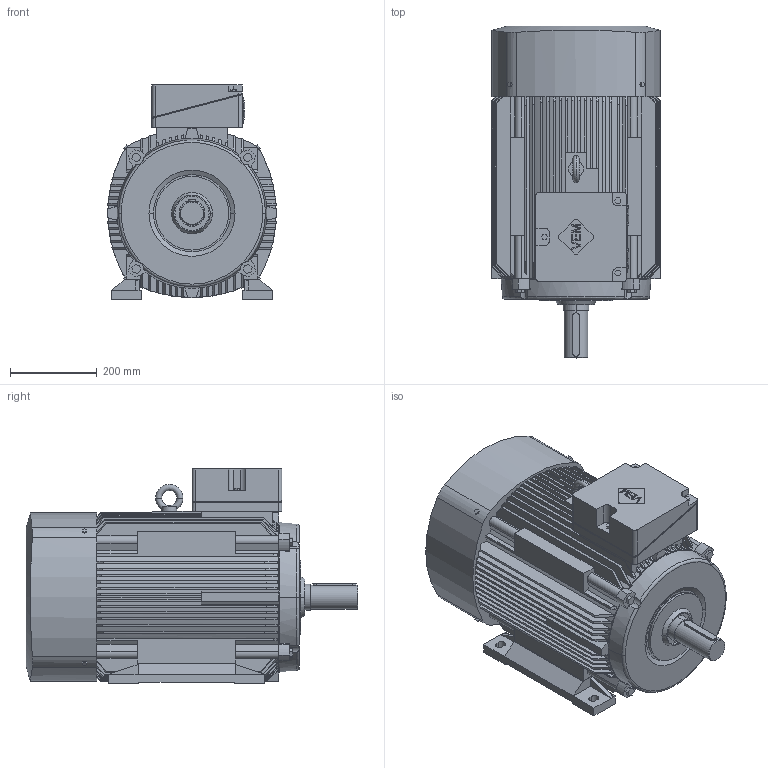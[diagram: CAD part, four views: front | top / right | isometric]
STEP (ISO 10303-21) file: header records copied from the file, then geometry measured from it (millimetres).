
FILE_DESCRIPTION(('STEP AP214'),'1');
FILE_NAME('cctmp_0D95C039-F25E-49EB-B5DE-71DC15CCD1A9_2026_02_06_09_51_06_0170..stp','2026-02-06T08:51:06',('VEM motors GmbH'),('CADClick - www.CADClick.com'),'Spatial InterOp 3D postprocessed',' ','unknown authorization');
FILE_SCHEMA(('AUTOMOTIVE_DESIGN'));
Length unit declared in the file: millimetre
Products named in the file (1): 1
Bounding box: 390 x 766 x 498 mm (x, y, z)
Volume: 75670173.9 mm3; surface area: 2493735.5 mm2
Topology: 5 solids, 6 shells, 760 faces, 2136 edges, 1410 vertices
Faces by surface type: plane 444, cylinder 178, cone 124, torus 10, bspline 4
Entity records: 30427 total; most frequent: CARTESIAN_POINT 8999, ORIENTED_EDGE 4272, DIRECTION 3736, EDGE_CURVE 2136, VERTEX_POINT 1410, LINE 1286, VECTOR 1286, AXIS2_PLACEMENT_3D 1225
